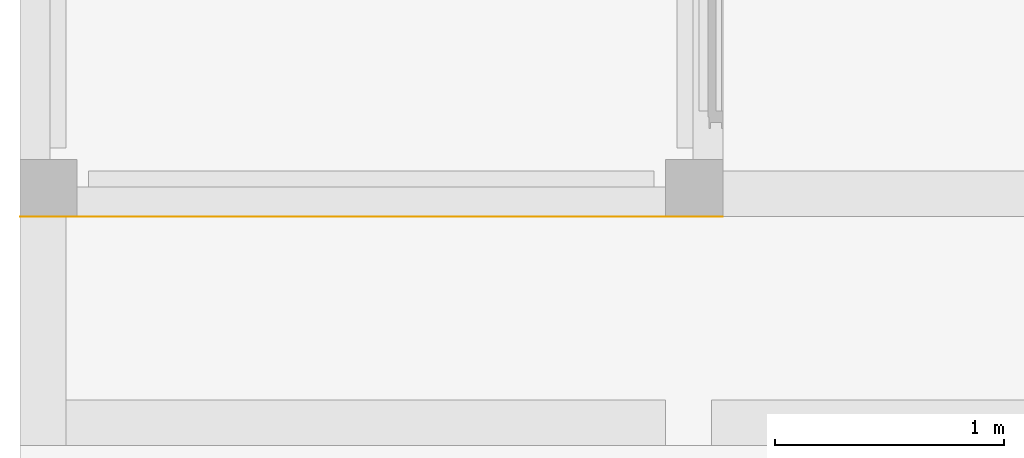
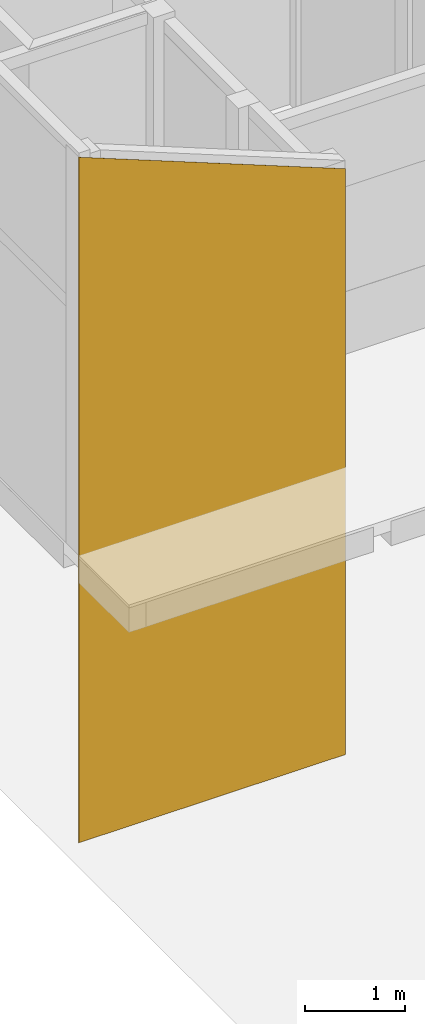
# One storey, part 7 of 8: 1 covering.
"""IFC4X3_ADD2 building model written with IfcOpenShell, lengths in millimetres."""

from ifc_helpers import new_model, entity, si_unit, converted_unit, frame, origin_with_axes, origin_2d_with_axis, place, context, subcontext, project, spatial, line, indexed_curve, outline, extrude, clip, halfspace, material, layer, layer_set, layer_usage, type_object, element, save


model = new_model("IFC4X3_ADD2")

# Units and contexts
model_context = context("Model", 3, precision=1e-05, world=origin_with_axes())
plan_context = context("Plan", 2, precision=1e-05, world=origin_2d_with_axis())
body_context = subcontext(model_context, "Body", "Model", "MODEL_VIEW")
ifc_project = project(units=[si_unit("VOLUMEUNIT", "CUBIC_METRE"), si_unit("LENGTHUNIT", "METRE", prefix="MILLI"), converted_unit("PLANEANGLEUNIT", "degree", entity("IfcReal", 0.0174532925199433), si_unit("PLANEANGLEUNIT", "RADIAN"), dimensions=[0, 0, 0, 0, 0, 0, 0]), si_unit("AREAUNIT", "SQUARE_METRE")], contexts=[model_context, plan_context])

# Site, building, storey
site_placement = place(None, origin_with_axes())
site = spatial("IfcSite", under=ifc_project, at=site_placement, Name="My Site")
building_placement = place(site_placement, origin_with_axes())
building = spatial("IfcBuilding", under=site, at=building_placement, Name="My Building")
storey_placement = place(building_placement, origin_with_axes())
storey = spatial("IfcBuildingStorey", under=building, at=storey_placement, Name="Lantai 2")

# Covering
ifc_material = material(Name="plester")
ifc_layer = layer(ifc_material, 1.0)
ifc_layer_set = layer_set([ifc_layer])
ifc_layer_usage = layer_usage(ifc_layer_set, "AXIS2", "NEGATIVE", 0.0)
covering_type = type_object("IfcCoveringType", Name="cat", PredefinedType="CLADDING", material=ifc_layer_set)
covering_placement = place(storey_placement, frame((-150.000005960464, -150.000095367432, 0.0), z_axis=(0.0, 0.0, 1.0), x_axis=(1.0, 0.0, 0.0)))
element("IfcCovering", 1, at=covering_placement, inside=storey, type_object=covering_type, material=ifc_layer_usage, Name="Covering", context=body_context, shape_type="Clipping", body=[
    clip(extrude(outline(indexed_curve([(0.0, -1.0), (0.0, 0.0), (3070.00016426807, 0.0), (3070.00016426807, -1.0)], segments=[line(1, 2, 3, 4, 1)])), origin_with_axes(), (0.0, 0.0, 1.0), 8650.00057220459), halfspace(frame((1200.9130859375, 525.306213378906, 7874.58154296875), z_axis=(0.368086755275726, -8.07736171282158e-07, 0.929791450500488), x_axis=(-0.929791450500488, -3.02964508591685e-07, 0.368086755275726)), False)),
])

save(model, "model.ifc")
